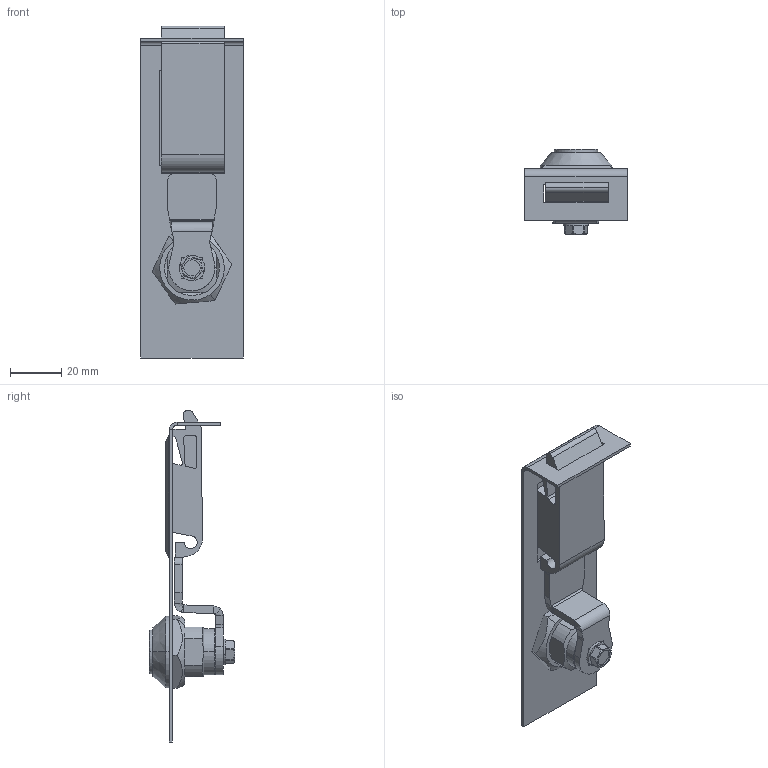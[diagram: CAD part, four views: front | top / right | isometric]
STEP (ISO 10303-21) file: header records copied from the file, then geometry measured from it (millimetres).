
FILE_DESCRIPTION (( 'STEP AP214' ), '1' );
FILE_NAME ('Z³o¿enie2.STEP', '2009-05-27T05:02:35', ( 'abc' ), ( '' ), 'SwSTEP 2.0', 'SolidWorks 2004231', '' );
FILE_SCHEMA (( 'AUTOMOTIVE_DESIGN' ));
Length unit declared in the file: millimetre
Products named in the file (9): Zlo¿-S1_Domyœlna; 2.M22.01.01.00_Domyœlna; wk³adka 170_Domyœlna; M22-R.00.00.05_Domyœlna; Z這瞠nie2; jêzyk_Domyœlna; sruba M6_Domyœlna; Blacha monta¿owa; Slinding lock_Domyœlna
Assembly tree (8 placements, depth 3):
  Z這瞠nie2
    Slinding lock_Domyœlna
    Zlo¿-S1_Domyœlna
      wk³adka 170_Domyœlna
      sruba M6_Domyœlna
      M22-R.00.00.05_Domyœlna
      2.M22.01.01.00_Domyœlna
    jêzyk_Domyœlna
    Blacha monta¿owa
Bounding box: 40 x 33.3 x 129.69 mm (x, y, z)
Volume: 26275.6 mm3; surface area: 26771.3 mm2
Topology: 7 solids, 7 shells, 278 faces, 697 edges, 444 vertices
Faces by surface type: plane 162, cylinder 83, cone 16, bspline 13, torus 4
Entity records: 9050 total; most frequent: CARTESIAN_POINT 2061, DIRECTION 1404, ORIENTED_EDGE 1394, EDGE_CURVE 697, AXIS2_PLACEMENT_3D 485, VERTEX_POINT 444, VECTOR 434, LINE 434
